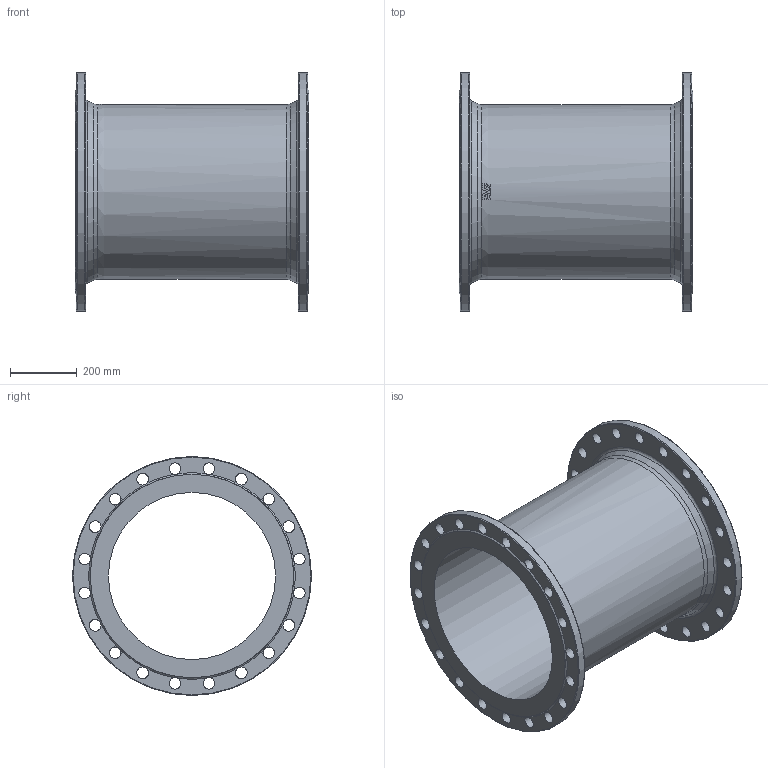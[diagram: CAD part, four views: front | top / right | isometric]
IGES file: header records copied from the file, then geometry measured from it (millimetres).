
Start section: SolidWorks IGES file using analytic representation for surfaces
Global section: file name: \\avksan2\techshare\PBM outline export from Enovia\O_712_5010_DN500_1X_REV01.igs; native system: SolidWorks 2019; preprocessor: SolidWorks 2019; author: pbm; date: 211203.112440; units: millimetre
Bounding box: 700 x 715 x 715 mm (x, y, z)
Surface area: 3056905.7 mm2 (no closed solid volume)
Topology: 0 solids, 0 shells, 103 faces, 685 edges, 628 vertices
Faces by surface type: revolution 60, bspline 43
